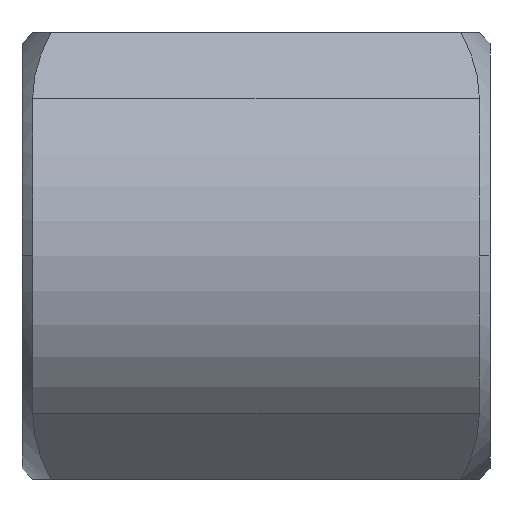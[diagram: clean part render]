
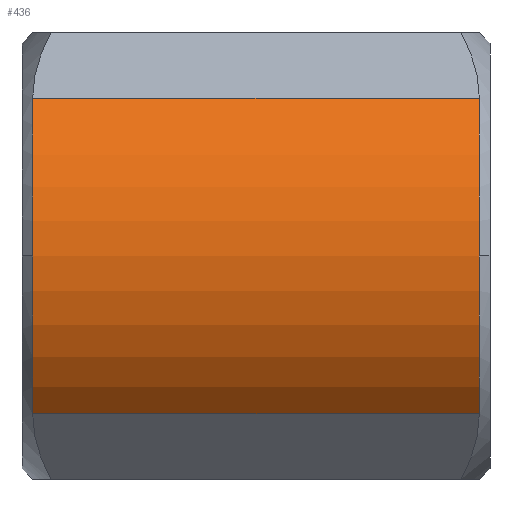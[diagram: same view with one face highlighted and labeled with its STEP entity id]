
A CAD part, left-side view. The second image highlights one B-rep face of the part: STEP entity #436.
In plain terms, the highlighted cylindrical face has radius 10.5 mm (diameter 21 mm), a partial arc.
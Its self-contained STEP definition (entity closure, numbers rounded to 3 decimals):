
#64 = DIRECTION ( 'NONE',  ( -1., 0., 0. ) ) ;
#146 = EDGE_CURVE ( 'Defeature completata3_14+Defeature completata3_9+Defeature completata3_5+Defeature completata3_8', #3086, #1732, #1850, .T. ) ;
#228 = CARTESIAN_POINT ( 'NONE',  ( 0., 0.5, 0. ) ) ;
#311 = DIRECTION ( 'NONE',  ( 0., -1., 0. ) ) ;
#341 = CIRCLE ( 'NONE', #1273, 10.5 ) ;
#428 = DIRECTION ( 'NONE',  ( 0., 0., -1. ) ) ;
#436 = ADVANCED_FACE ( 'Defeature completata3_9', ( #673 ), #1160, .T. ) ;
#505 = ORIENTED_EDGE ( 'NONE', *, *, #2041, .T. ) ;
#598 = CARTESIAN_POINT ( 'NONE',  ( -10.5, 0.5, 0. ) ) ;
#608 = DIRECTION ( 'NONE',  ( 0., -1., 0. ) ) ;
#673 = FACE_OUTER_BOUND ( 'NONE', #1441, .T. ) ;
#691 = DIRECTION ( 'NONE',  ( 0., -1., 0. ) ) ;
#738 = CARTESIAN_POINT ( 'NONE',  ( -7.425, 0.5, 7.425 ) ) ;
#749 = CARTESIAN_POINT ( 'NONE',  ( 0., 22., 0. ) ) ;
#1160 = CYLINDRICAL_SURFACE ( 'NONE', #2526, 10.5 ) ;
#1161 = EDGE_CURVE ( 'Defeature completata3_5+Defeature completata3_9+Defeature completata3_12+Defeature completata3_14', #3571, #2779, #1539, .T. ) ;
#1259 = ORIENTED_EDGE ( 'NONE', *, *, #2121, .F. ) ;
#1273 = AXIS2_PLACEMENT_3D ( 'NONE', #3431, #1787, #64 ) ;
#1324 = DIRECTION ( 'NONE',  ( 0., 1., 0. ) ) ;
#1441 = EDGE_LOOP ( 'NONE', ( #1259, #3436, #1990, #3108, #505, #2776 ) ) ;
#1489 = CARTESIAN_POINT ( 'NONE',  ( -7.425, 21.5, -7.425 ) ) ;
#1499 = CIRCLE ( 'NONE', #1706, 10.5 ) ;
#1539 = LINE ( 'NONE', #1727, #2892 ) ;
#1615 = DIRECTION ( 'NONE',  ( 0., 1., 0. ) ) ;
#1616 = CARTESIAN_POINT ( 'NONE',  ( -7.425, 21.5, 7.425 ) ) ;
#1634 = CIRCLE ( 'NONE', #2125, 10.5 ) ;
#1706 = AXIS2_PLACEMENT_3D ( 'NONE', #2960, #1324, #3249 ) ;
#1727 = CARTESIAN_POINT ( 'NONE',  ( -7.425, 22., 7.425 ) ) ;
#1732 = VERTEX_POINT ( 'NONE', #3033 ) ;
#1787 = DIRECTION ( 'NONE',  ( 0., -1., 0. ) ) ;
#1850 = CIRCLE ( 'NONE', #3540, 10.5 ) ;
#1990 = ORIENTED_EDGE ( 'NONE', *, *, #2825, .F. ) ;
#2041 = EDGE_CURVE ( 'Defeature completata3_9+Defeature completata3_8+Defeature completata3_12+Defeature completata3_14', #2081, #1732, #2272, .T. ) ;
#2081 = VERTEX_POINT ( 'NONE', #1489 ) ;
#2121 = EDGE_CURVE ( 'Defeature completata3_14+Defeature completata3_9+Defeature completata3_5+Defeature completata3_8', #2779, #3086, #341, .T. ) ;
#2125 = AXIS2_PLACEMENT_3D ( 'NONE', #3253, #1615, #3533 ) ;
#2272 = LINE ( 'NONE', #3110, #2893 ) ;
#2462 = DIRECTION ( 'NONE',  ( -1., 0., 0. ) ) ;
#2526 = AXIS2_PLACEMENT_3D ( 'NONE', #749, #691, #428 ) ;
#2528 = EDGE_CURVE ( 'Defeature completata3_12+Defeature completata3_9+Defeature completata3_8+Defeature completata3_5', #2081, #3329, #1634, .T. ) ;
#2776 = ORIENTED_EDGE ( 'NONE', *, *, #146, .F. ) ;
#2779 = VERTEX_POINT ( 'NONE', #738 ) ;
#2825 = EDGE_CURVE ( 'Defeature completata3_12+Defeature completata3_9+Defeature completata3_8+Defeature completata3_5', #3329, #3571, #1499, .T. ) ;
#2892 = VECTOR ( 'NONE', #608, 1000. ) ;
#2893 = VECTOR ( 'NONE', #311, 1000. ) ;
#2960 = CARTESIAN_POINT ( 'NONE',  ( 0., 21.5, 0. ) ) ;
#3033 = CARTESIAN_POINT ( 'NONE',  ( -7.425, 0.5, -7.425 ) ) ;
#3086 = VERTEX_POINT ( 'NONE', #598 ) ;
#3108 = ORIENTED_EDGE ( 'NONE', *, *, #2528, .F. ) ;
#3110 = CARTESIAN_POINT ( 'NONE',  ( -7.425, 22., -7.425 ) ) ;
#3249 = DIRECTION ( 'NONE',  ( 1., 0., 0. ) ) ;
#3253 = CARTESIAN_POINT ( 'NONE',  ( 0., 21.5, 0. ) ) ;
#3329 = VERTEX_POINT ( 'NONE', #3446 ) ;
#3431 = CARTESIAN_POINT ( 'NONE',  ( 0., 0.5, 0. ) ) ;
#3436 = ORIENTED_EDGE ( 'NONE', *, *, #1161, .F. ) ;
#3446 = CARTESIAN_POINT ( 'NONE',  ( -10.5, 21.5, 0. ) ) ;
#3533 = DIRECTION ( 'NONE',  ( 1., 0., 0. ) ) ;
#3540 = AXIS2_PLACEMENT_3D ( 'NONE', #228, #3551, #2462 ) ;
#3551 = DIRECTION ( 'NONE',  ( 0., -1., 0. ) ) ;
#3571 = VERTEX_POINT ( 'NONE', #1616 ) ;
